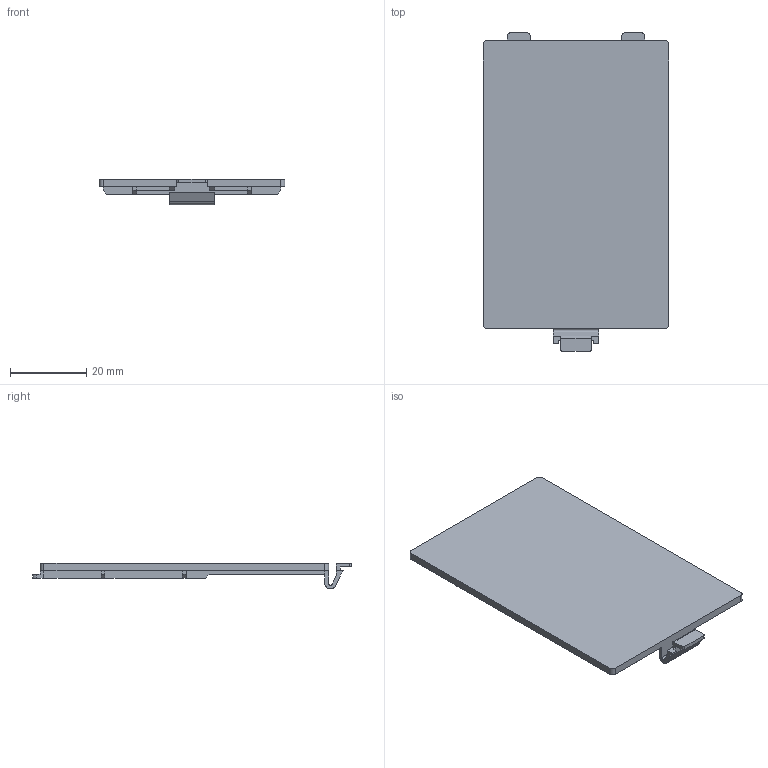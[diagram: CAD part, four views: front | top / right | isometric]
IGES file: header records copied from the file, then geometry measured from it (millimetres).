
Global section: file name: Filename.iges; native system: Open CASCADE 7.5; preprocessor: Open CASCADE IGES processor 7.5; date: 20210414.164134; units: millimetre
Bounding box: 48.7 x 83.7 x 6.79 mm (x, y, z)
Surface area: 10057.4 mm2 (no closed solid volume)
Topology: 0 solids, 0 shells, 121 faces, 670 edges, 670 vertices
Faces by surface type: bspline 106, revolution 15
